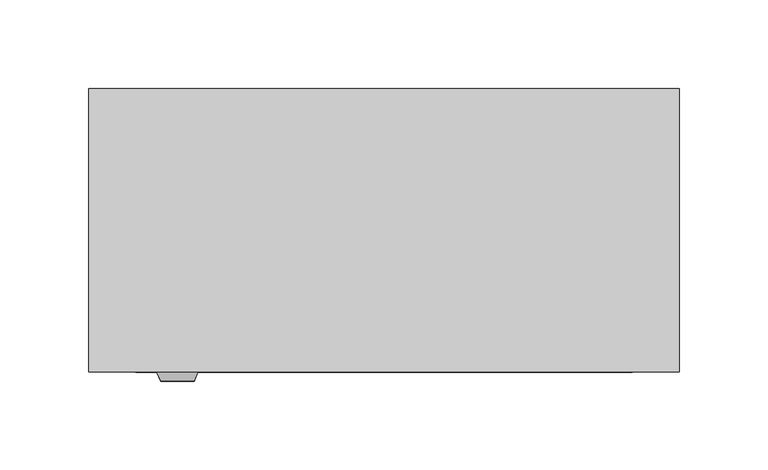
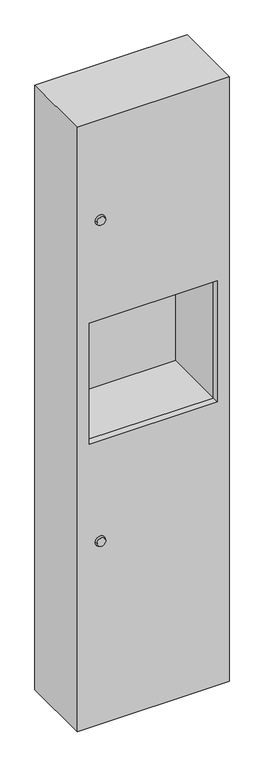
"""IFC4 building model written with IfcOpenShell, lengths in millimetres: proxy geometry, Paper Dispenser and Waste_Metlam_Surface Mounted_22L Waste : 333w x 160d x 1397h (ML707SM_MK2)."""

import ifcopenshell
import ifcopenshell.guid

model = None  # the IFC model being written
_history = None  # IfcOwnerHistory: only IFC2X3 demands one
_inside = {}  # id of a spatial element -> (the spatial element, [elements in it])
_under = {}  # id of a project, library or spatial element -> (it, [spatial elements below it])
_declared = {}  # id of a project -> (the project, [libraries it declares])
_typed = {}  # id of a type object -> (the type object, [elements of that type])
_made_of = {}  # id of a material, layer set ... -> (it, [elements and type objects made of it])


def new_model(schema):
    """Start an empty IFC model of exactly this schema.

    Asked for "IFC4X3", IfcOpenShell would pick the latest addendum, in which some entities
    have other attributes; the version numbers below select the first issue.
    IFC2X3 requires an IfcOwnerHistory on every rooted entity: one is made here for all.
    """
    global model, _history
    if schema == "IFC4X3":
        model = ifcopenshell.file(schema_version=(4, 3, 0, 0))
    else:
        model = ifcopenshell.file(schema=schema)
    _inside.clear()
    _under.clear()
    _declared.clear()
    _typed.clear()
    _made_of.clear()
    _history = None
    if model.schema == "IFC2X3":
        org = make("IfcOrganization", Name="unknown")
        user = make(
            "IfcPersonAndOrganization",
            ThePerson=make("IfcPerson", FamilyName="unknown"),
            TheOrganization=org,
        )
        app = make(
            "IfcApplication",
            ApplicationDeveloper=org,
            Version="unknown",
            ApplicationFullName="unknown",
            ApplicationIdentifier="unknown",
        )
        _history = make(
            "IfcOwnerHistory",
            OwningUser=user,
            OwningApplication=app,
            ChangeAction="ADDED",
            CreationDate=0,
        )
    return model


def make(cls, **values):
    """One entity of the class cls with the attributes given. An attribute that is None is left unset."""
    return model.create_entity(
        cls, **{name: value for name, value in values.items() if value is not None}
    )


def rooted(cls, **values):
    """An entity with a GlobalId (a new one), such as an element, a storey or a relation."""
    return make(cls, GlobalId=ifcopenshell.guid.new(), OwnerHistory=_history, **values)


def si_unit(unit_type, name, prefix=None):
    """IfcSIUnit, for example si_unit("LENGTHUNIT", "METRE", prefix="MILLI")."""
    return make("IfcSIUnit", UnitType=unit_type, Prefix=prefix, Name=name)


def assignment(units):
    """IfcUnitAssignment: the units of a project."""
    return None if units is None else make("IfcUnitAssignment", Units=units)


def point(xyz):
    """IfcCartesianPoint."""
    return None if xyz is None else make("IfcCartesianPoint", Coordinates=xyz)


def direction(xyz):
    """IfcDirection."""
    return None if xyz is None else make("IfcDirection", DirectionRatios=xyz)


def frame(location, z_axis=None, x_axis=None):
    """IfcAxis2Placement3D, a coordinate frame: its origin and axes. An axis left out is left unset."""
    return make(
        "IfcAxis2Placement3D",
        Location=point(location),
        Axis=direction(z_axis),
        RefDirection=direction(x_axis),
    )


def origin():
    """The frame at (0, 0, 0) with its axes left unset."""
    return frame((0.0, 0.0, 0.0))


def place(relative_to, where):
    """IfcLocalPlacement: puts the frame where relative to a parent placement (None: the world)."""
    return make(
        "IfcLocalPlacement", PlacementRelTo=relative_to, RelativePlacement=where
    )


def context(
    kind, dimensions, precision=None, world=None, true_north=None, identifier=None
):
    """IfcGeometricRepresentationContext, for example the 3D "Model" context."""
    return make(
        "IfcGeometricRepresentationContext",
        ContextIdentifier=identifier,
        ContextType=kind,
        CoordinateSpaceDimension=dimensions,
        Precision=precision,
        WorldCoordinateSystem=world,
        TrueNorth=true_north,
    )


def project(units=None, contexts=None):
    """IfcProject with its units and contexts."""
    return rooted(
        "IfcProject",
        Name="project",
        RepresentationContexts=contexts,
        UnitsInContext=assignment(units),
    )


def spatial(cls, under=None, at=None, **own):
    """A site, building, storey or space (cls), placed at a placement, below another one or the project."""
    s = rooted(cls, ObjectPlacement=at, **own)
    if under is not None:
        _under.setdefault(under.id(), (under, []))[1].append(s)
    return s


def polyline(points):
    """IfcPolyline through the points."""
    return make("IfcPolyline", Points=[point(p) for p in points])


def circle_curve(where, radius):
    """IfcCircle in the frame where."""
    return make("IfcCircle", Position=where, Radius=radius)


def outline(outer, holes=None, kind="AREA"):
    """IfcArbitraryClosedProfileDef: a profile drawn as a closed curve; with holes, ...WithVoids."""
    if holes is None:
        return make("IfcArbitraryClosedProfileDef", ProfileType=kind, OuterCurve=outer)
    return make(
        "IfcArbitraryProfileDefWithVoids",
        ProfileType=kind,
        OuterCurve=outer,
        InnerCurves=holes,
    )


def extrude(swept, where, along, depth):
    """IfcExtrudedAreaSolid: the profile swept, set in the frame where, extruded along a direction by depth."""
    return make(
        "IfcExtrudedAreaSolid",
        SweptArea=swept,
        Position=where,
        ExtrudedDirection=direction(along),
        Depth=depth,
    )


def faces_of(points, faces, orient=None, outer=None):
    """IfcFace entities. A face is a list of loops; a loop is a list of indices into points, from 0.

    orient and outer hold one flag for each loop. By default every Orientation is true, the
    first loop of a face is its IfcFaceOuterBound and the others are IfcFaceBound.
    """
    made = []
    for i, loops in enumerate(faces):
        bounds = []
        for j, loop in enumerate(loops):
            is_outer = j == 0 if outer is None else outer[i][j]
            bounds.append(
                make(
                    "IfcFaceOuterBound" if is_outer else "IfcFaceBound",
                    Bound=make("IfcPolyLoop", Polygon=[points[k] for k in loop]),
                    Orientation=True if orient is None else orient[i][j],
                )
            )
        made.append(make("IfcFace", Bounds=bounds))
    return made


def faceted_brep(points, faces, orient=None, outer=None, voids=None):
    """IfcFacetedBrep: a solid bounded by flat faces; with voids (closed shells), ...WithVoids."""
    shared = [point(p) for p in points]
    hull = make("IfcClosedShell", CfsFaces=faces_of(shared, faces, orient, outer))
    if voids is None:
        return make("IfcFacetedBrep", Outer=hull)
    return make(
        "IfcFacetedBrepWithVoids",
        Outer=hull,
        Voids=[
            make(cls, CfsFaces=faces_of(shared, fs, o, b)) for cls, fs, o, b in voids
        ],
    )


def shape(context_of_items, identifier, shape_type, items):
    """IfcShapeRepresentation: the items that make up one representation, for example the "Body"."""
    return make(
        "IfcShapeRepresentation",
        ContextOfItems=context_of_items,
        RepresentationIdentifier=identifier,
        RepresentationType=shape_type,
        Items=items,
    )


def source(mapping_origin, context_of_items, identifier, shape_type, items):
    """IfcRepresentationMap: a shape defined once, which mapped items show again and again."""
    return make(
        "IfcRepresentationMap",
        MappingOrigin=mapping_origin,
        MappedRepresentation=shape(context_of_items, identifier, shape_type, items),
    )


def transform(
    local_origin,
    x_axis=None,
    y_axis=None,
    z_axis=None,
    scale=None,
    scale2=None,
    scale3=None,
    uniform=True,
):
    """IfcCartesianTransformationOperator3D, or its non-uniform kind. x_axis, y_axis, z_axis: its Axis1, 2, 3."""
    if uniform:
        return make(
            "IfcCartesianTransformationOperator3D",
            Axis1=direction(x_axis),
            Axis2=direction(y_axis),
            LocalOrigin=point(local_origin),
            Scale=scale,
            Axis3=direction(z_axis),
        )
    return make(
        "IfcCartesianTransformationOperator3DnonUniform",
        Axis1=direction(x_axis),
        Axis2=direction(y_axis),
        LocalOrigin=point(local_origin),
        Scale=scale,
        Axis3=direction(z_axis),
        Scale2=scale2,
        Scale3=scale3,
    )


def mapped(mapping_source, mapping_target):
    """IfcMappedItem: shows the shape of a source again, moved by a transform."""
    return make(
        "IfcMappedItem", MappingSource=mapping_source, MappingTarget=mapping_target
    )


def made_of(thing, what):
    """Note that an element or type object is made of a material, layer set ...; save() writes the relation."""
    if what is not None:
        _made_of.setdefault(what.id(), (what, []))[1].append(thing)
    return thing


def element(
    cls,
    number,
    at=None,
    inside=None,
    cuts=None,
    type_object=None,
    material=None,
    context=None,
    identifier="Body",
    shape_type=None,
    held_by="IfcProductDefinitionShape",
    body=None,
    shapes=None,
    **own,
):
    """One element of the class cls, such as IfcWall. Its Tag is "e" and its number.

    at: its placement. inside: the storey or other place that contains it. cuts: it is an
    opening in that element (IfcRelVoidsElement). A single representation is given by context,
    identifier, shape_type and body (its items); several are given by shapes. held_by: the class
    of the entity that holds the representations. save() writes the other relations.
    """
    e = rooted(cls, Tag="e%d" % number, ObjectPlacement=at, **own)
    if body is not None:
        shapes = [shape(context, identifier, shape_type, body)]
    if shapes is not None:
        e.Representation = make(held_by, Representations=shapes)
    if inside is not None:
        _inside.setdefault(inside.id(), (inside, []))[1].append(e)
    if cuts is not None:
        rooted(
            "IfcRelVoidsElement", RelatingBuildingElement=cuts, RelatedOpeningElement=e
        )
    if type_object is not None:
        _typed.setdefault(type_object.id(), (type_object, []))[1].append(e)
    return made_of(e, material)


def aggregate(whole, parts):
    """IfcRelAggregates: a whole, such as a stair, and the parts it consists of."""
    return rooted("IfcRelAggregates", RelatingObject=whole, RelatedObjects=parts)


def save(model, path):
    """Write the relations noted so far, then the file.

    IfcRelAggregates (storeys below a building ...), IfcRelContainedInSpatialStructure (elements
    in a storey), IfcRelDefinesByType, IfcRelAssociatesMaterial and IfcRelDeclares: one each for
    every whole, place, type object, material and project.
    """
    for whole, parts in _under.values():
        aggregate(whole, parts)
    for where, things in _inside.values():
        rooted(
            "IfcRelContainedInSpatialStructure",
            RelatedElements=things,
            RelatingStructure=where,
        )
    for kind, things in _typed.values():
        rooted("IfcRelDefinesByType", RelatedObjects=things, RelatingType=kind)
    for what, things in _made_of.values():
        rooted("IfcRelAssociatesMaterial", RelatedObjects=things, RelatingMaterial=what)
    for by, libraries in _declared.values():
        rooted("IfcRelDeclares", RelatingContext=by, RelatedDefinitions=libraries)
    model.write(path)


def plane_surface(at):
    """IfcPlane: the flat surface through the origin of the frame at, square to its z axis."""
    return make("IfcPlane", Position=at)


def revolved_surface(curve, axis_point, axis_direction):
    """IfcSurfaceOfRevolution: the curve turned about the line through axis_point along axis_direction."""
    return make(
        "IfcSurfaceOfRevolution",
        SweptCurve=make("IfcArbitraryOpenProfileDef", ProfileType="CURVE", Curve=curve),
        AxisPosition=make("IfcAxis1Placement", Location=point(axis_point), Axis=direction(axis_direction)),
    )


def advanced_brep(points, edges, surfaces, faces):
    """IfcAdvancedBrep: a solid bounded by faces that lie on surfaces and meet in shared edges.

    An edge is (start, end): straight between two places in points (the first is 0);
    or (start, end, curve); or (start, end, curve, False) where it runs against its curve.
    A face is (place in surfaces, loops), or (place, loops, False) where it looks against
    its surface's normal. A loop lists edges by number (the first is 1), with a minus sign
    where the edge is run from its end to its start. The first loop is the outer one.
    """
    corners = [point(p) for p in points]
    vertices = [make("IfcVertexPoint", VertexGeometry=c) for c in corners]
    made = []
    for start, end, *more in edges:
        made.append(
            make(
                "IfcEdgeCurve",
                EdgeStart=vertices[start],
                EdgeEnd=vertices[end],
                EdgeGeometry=more[0] if more else make("IfcPolyline", Points=[corners[start], corners[end]]),
                SameSense=more[1] if len(more) > 1 else True,
            )
        )
    hull = []
    for where, loops, *sense in faces:
        bounds = []
        for j, loop in enumerate(loops):
            ring = [make("IfcOrientedEdge", EdgeElement=made[abs(k) - 1], Orientation=k > 0) for k in loop]
            bounds.append(
                make(
                    "IfcFaceOuterBound" if j == 0 else "IfcFaceBound",
                    Bound=make("IfcEdgeLoop", EdgeList=ring),
                    Orientation=True,
                )
            )
        hull.append(make("IfcAdvancedFace", Bounds=bounds, FaceSurface=surfaces[where], SameSense=sense[0] if sense else True))
    return make("IfcAdvancedBrep", Outer=make("IfcClosedShell", CfsFaces=hull))


def specialty_equipment_a7aae13d(model_context):
    return source(origin(), model_context, "Body", "SolidModel", [
        faceted_brep([(166.5, -160.0, 400.0), (166.5, -160.0, 1797.0), (-166.5, -160.0, 1797.0), (-166.5, -160.0, 400.0), (140.0, -160.0, 1335.0), (140.0, -160.0, 1055.0), (-140.0, -160.0, 1055.0), (-140.0, -160.0, 1335.0), (164.9, -145.0, 401.6), (-164.9, -145.0, 401.6), (-164.9, -145.0, 1795.4), (164.9, -145.0, 1795.4), (140.0, -145.0, 1335.0), (-140.0, -145.0, 1335.0), (-140.0, -145.0, 1055.0), (140.0, -145.0, 1055.0), (-166.5, 0.0, 1797.0), (-166.5, 0.0, 400.0), (166.5, 0.0, 400.0), (166.5, 0.0, 1797.0), (164.9, 0.0, 401.6), (164.9, 0.0, 1795.4), (-164.9, 0.0, 1795.4), (-164.9, 0.0, 401.6)], [[[0, 1, 2, 3], [4, 5, 6, 7]], [[8, 9, 10, 11], [12, 13, 14, 15]], [[3, 2, 16, 17]], [[0, 3, 17, 18]], [[1, 0, 18, 19]], [[16, 2, 1, 19]], [[5, 4, 12, 15]], [[6, 5, 15, 14]], [[7, 6, 14, 13]], [[4, 7, 13, 12]], [[18, 17, 16, 19], [20, 21, 22, 23]], [[20, 23, 9, 8]], [[23, 22, 10, 9]], [[22, 21, 11, 10]], [[21, 20, 8, 11]]]),
        extrude(outline(polyline([(1336.6, 141.6), (1336.6, -141.6), (1053.4, -141.6), (1053.4, 141.6), (1336.6, 141.6)]), holes=[polyline([(1335.0, 140.0), (1055.0, 140.0), (1055.0, -140.0), (1335.0, -140.0), (1335.0, 140.0)])]), frame((0.0, -145.0, 0.0), z_axis=(0.0, 1.0, 0.0), x_axis=(0.0, 0.0, 1.0)), (0.0, 0.0, 1.0), 143.0),
        extrude(outline(polyline([(1335.0, 120.0), (1335.0, -120.0), (1315.0, -120.0), (1315.0, -10.0), (1325.0, -10.0), (1325.0, 10.0), (1315.0, 10.0), (1315.0, 120.0), (1335.0, 120.0)])), frame((0.0, -130.0, 0.0), z_axis=(0.0, 1.0, 0.0), x_axis=(0.0, 0.0, 1.0)), (0.0, 0.0, 1.0), 10.0),
        faceted_brep([(-146.0, -145.0, 1774.5), (-146.0, -145.0, 422.5), (146.0, -145.0, 422.5), (146.0, -145.0, 1774.5), (-144.0, -145.0, 1772.5), (144.0, -145.0, 1772.5), (144.0, -145.0, 424.5), (-144.0, -145.0, 424.5), (-146.0, 0.0, 1774.5), (146.0, 0.0, 1774.5), (146.0, 0.0, 422.5), (-146.0, 0.0, 422.5), (-146.0, -2.0, 1774.5), (-146.0, -2.0, 422.5), (146.0, -2.0, 422.5), (146.0, -2.0, 1774.5), (-144.0, -2.0, 1772.5), (144.0, -2.0, 1772.5), (144.0, -2.0, 424.5), (-144.0, -2.0, 424.5)], [[[0, 1, 2, 3], [4, 5, 6, 7]], [[8, 9, 10, 11]], [[1, 0, 12, 8, 11, 13]], [[2, 1, 13, 11, 10, 14]], [[3, 2, 14, 10, 9, 15]], [[0, 3, 15, 9, 8, 12]], [[5, 4, 16, 17]], [[6, 5, 17, 18]], [[7, 6, 18, 19]], [[4, 7, 19, 16]], [[17, 16, 19, 18]]]),
        advanced_brep(
        [(-126.0, -165.0, 824.0), (-107.0, -165.0, 824.0), (-128.0, -160.0, 824.0), (-105.0, -160.0, 824.0)],
        [
            (0, 1, circle_curve(frame((-116.5, -165.0, 824.0), z_axis=(0.0, -1.0, 9.014868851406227e-12), x_axis=(-1.0, 0.0, 0.0)), 9.5)),
            (1, 0, circle_curve(frame((-116.5, -165.0, 824.0), z_axis=(0.0, -1.0, 9.014868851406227e-12), x_axis=(1.0, 0.0, 0.0)), 9.5)),
            (2, 3, circle_curve(frame((-116.5, -160.0, 824.0), z_axis=(0.0, 1.0, -9.014868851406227e-12), x_axis=(1.0, 0.0, 0.0)), 11.5)),
            (3, 2, circle_curve(frame((-116.5, -160.0, 824.0), z_axis=(0.0, 1.0, -9.014868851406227e-12), x_axis=(-1.0, 0.0, 0.0)), 11.5)),
            (3, 1),
            (0, 2),
        ],
        [
            plane_surface(frame((-116.5, -165.0, 824.0), z_axis=(0.0, -1.0, 0.0), x_axis=(0.0, 0.0, -1.0))),
            plane_surface(frame((-116.5, -160.0, 824.0), z_axis=(0.0, 1.0, 0.0), x_axis=(0.0, 0.0, -1.0))),
            revolved_surface(polyline([(-126.0, -165.0, 824.0), (-128.0, -160.0, 824.0)]), (-116.5, -188.75, 824.0), (0.0, 1.0, -9.014868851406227e-12)),
            revolved_surface(polyline([(-107.0, -165.0, 824.0), (-105.0, -160.0, 824.0)]), (-116.5, -188.75, 824.0), (0.0, 1.0, -9.014868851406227e-12)),
        ],
        [
            (0, [[1, 2]]),
            (1, [[3, 4]]),
            (2, [[-4, 5, -1, 6]]),
            (3, [[-3, -6, -2, -5]]),
        ],
    ),
        advanced_brep(
        [(-126.0, -165.0, 1566.0), (-107.0, -165.0, 1566.0), (-128.0, -160.0, 1566.0), (-105.0, -160.0, 1566.0)],
        [
            (0, 1, circle_curve(frame((-116.5, -165.0, 1566.0), z_axis=(0.0, -1.0, -9.150227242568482e-12), x_axis=(-1.0, 0.0, 0.0)), 9.5)),
            (1, 0, circle_curve(frame((-116.5, -165.0, 1566.0), z_axis=(0.0, -1.0, -9.150227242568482e-12), x_axis=(1.0, 0.0, 0.0)), 9.5)),
            (2, 3, circle_curve(frame((-116.5, -160.0, 1566.0), z_axis=(0.0, 1.0, 9.150227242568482e-12), x_axis=(1.0, 0.0, 0.0)), 11.5)),
            (3, 2, circle_curve(frame((-116.5, -160.0, 1566.0), z_axis=(0.0, 1.0, 9.150227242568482e-12), x_axis=(-1.0, 0.0, 0.0)), 11.5)),
            (3, 1),
            (0, 2),
        ],
        [
            plane_surface(frame((-116.5, -165.0, 1566.0), z_axis=(0.0, -1.0, 0.0), x_axis=(0.0, 0.0, -1.0))),
            plane_surface(frame((-116.5, -160.0, 1566.0), z_axis=(0.0, 1.0, 0.0), x_axis=(0.0, 0.0, -1.0))),
            revolved_surface(polyline([(-126.0, -165.0, 1566.0), (-128.0, -160.0, 1566.0)]), (-116.5, -188.75, 1566.0), (0.0, 1.0, 9.150227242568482e-12)),
            revolved_surface(polyline([(-107.0, -165.0, 1566.0), (-105.0, -160.0, 1566.0)]), (-116.5, -188.75, 1566.0), (0.0, 1.0, 9.150227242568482e-12)),
        ],
        [
            (0, [[1, 2]]),
            (1, [[3, 4]]),
            (2, [[-4, 5, -1, 6]]),
            (3, [[-3, -6, -2, -5]]),
        ],
    ),
    ])


if __name__ == "__main__":
    model = new_model("IFC4")
    model_context = context("Model", 3, world=origin())
    ifc_project = project(units=[si_unit("LENGTHUNIT", "METRE", prefix="MILLI")], contexts=[model_context])
    site = spatial("IfcSite", under=ifc_project)
    building = spatial("IfcBuilding", under=site)
    placement = place(None, origin())
    specialty_equipment_shape = specialty_equipment_a7aae13d(model_context)
    element("IfcBuildingElementProxy", 1, Name="Paper Dispenser and Waste_Metlam_Surface Mounted_22L Waste : 333w x 160d x 1397h (ML707SM_MK2)", ObjectType="Paper Dispenser and Waste_Metlam_Surface Mounted_22L Waste : 333w x 160d x 1397h (ML707SM_MK2)", at=placement, inside=building, context=model_context, shape_type="MappedRepresentation", body=[
        mapped(specialty_equipment_shape, transform((0.0, 0.0, 0.0), x_axis=(1.0, 0.0, 0.0), y_axis=(0.0, 1.0, 0.0), z_axis=(0.0, 0.0, 1.0))),
    ])
    save(model, "model.ifc")
